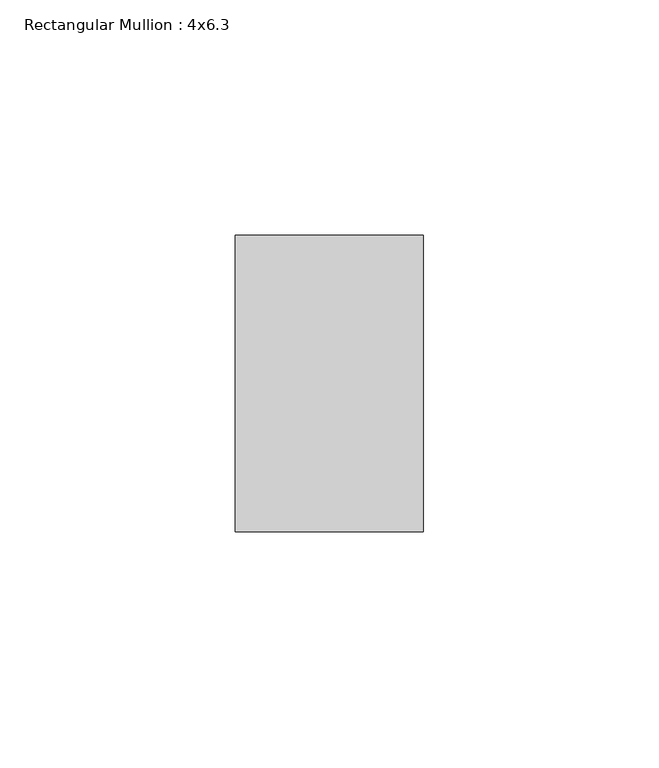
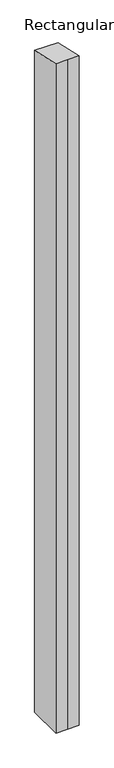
"""IFC4 building model written with IfcOpenShell, lengths in millimetres: member geometry, Rectangular Mullion : 4x6.3."""

from ifc_helpers import new_model, si_unit, origin, place, context, project, spatial, faceted_brep, source, transform, mapped, element, save


def rectangular_mullion_4x6_3_a06ea80c(model_context):
    return source(origin(), model_context, "Body", "Brep", [
        faceted_brep([(-20.0, 20.0, -1219.2027676), (-20.0, 83.0, -1219.2027676), (20.0, 83.0, -1219.2027676), (20.0, 20.0, -1219.2027676), (0.0, 20.0, -1219.2027676), (0.0, 20.0, -4.3995804), (-20.0, 20.0, -4.3995804), (20.0, 20.0, -4.3995804), (20.0, 83.0, -18.2582585), (-20.0, 83.0, -18.2582585)], [[[0, 1, 2, 3, 4]], [[5, 6, 0, 4]], [[7, 5, 4, 3]], [[8, 7, 3, 2]], [[9, 8, 2, 1]], [[6, 9, 1, 0]], [[6, 5, 7, 8, 9]]]),
    ])


if __name__ == "__main__":
    model = new_model("IFC4")
    model_context = context("Model", 3, world=origin())
    ifc_project = project(units=[si_unit("LENGTHUNIT", "METRE", prefix="MILLI")], contexts=[model_context])
    site = spatial("IfcSite", under=ifc_project)
    building = spatial("IfcBuilding", under=site)
    placement = place(None, origin())
    rectangular_mullion_4x6_3_shape = rectangular_mullion_4x6_3_a06ea80c(model_context)
    element("IfcMember", 1, ObjectType="Rectangular Mullion : 4x6.3", at=placement, inside=building, context=model_context, shape_type="MappedRepresentation", body=[
        mapped(rectangular_mullion_4x6_3_shape, transform((0.0, 0.0, 0.0), x_axis=(1.0, 0.0, 0.0), y_axis=(0.0, 1.0, 0.0), z_axis=(0.0, 0.0, 1.0))),
    ])
    save(model, "model.ifc")
